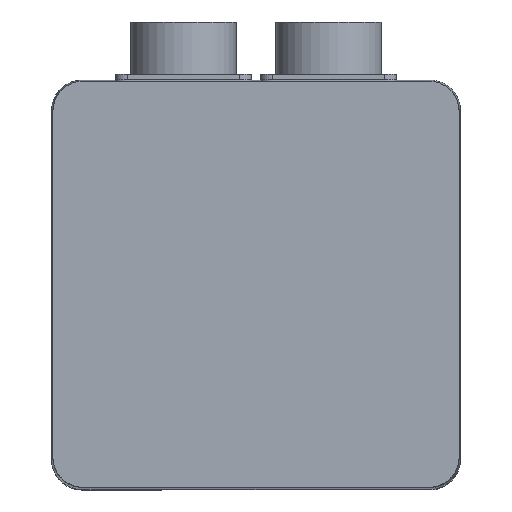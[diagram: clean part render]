
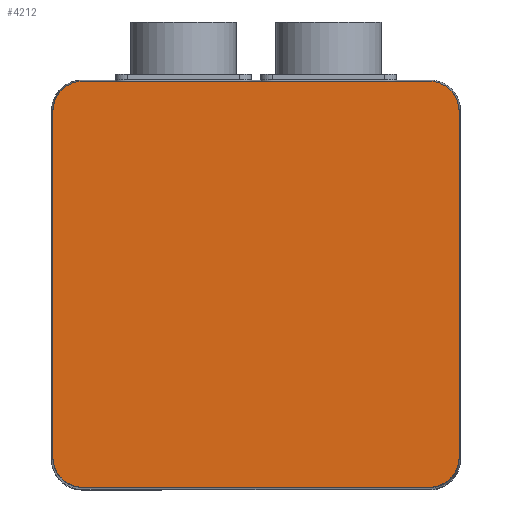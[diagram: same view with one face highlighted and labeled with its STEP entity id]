
A CAD part, top view. The second image highlights one B-rep face of the part: STEP entity #4212.
In plain terms, the highlighted planar face has unit normal (0, 0, 1).
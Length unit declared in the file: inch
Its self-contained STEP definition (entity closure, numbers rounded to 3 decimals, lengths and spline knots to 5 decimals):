
#3676=CARTESIAN_POINT('',(1.675,1.425,6.195));
#3677=VERTEX_POINT('',#3676);
#3684=CARTESIAN_POINT('',(1.675,-1.425,6.195));
#3685=VERTEX_POINT('',#3684);
#3686=CARTESIAN_POINT('',(1.675,1.425,6.195));
#3687=DIRECTION('',(0.0,-1.0,0.0));
#3688=VECTOR('',#3687,2.85);
#3689=LINE('',#3686,#3688);
#3690=EDGE_CURVE('',#3677,#3685,#3689,.T.);
#3755=CARTESIAN_POINT('',(1.425,1.675,6.195));
#3756=VERTEX_POINT('',#3755);
#3763=CARTESIAN_POINT('',(1.425,1.425,6.195));
#3764=DIRECTION('',(0.0,0.0,-1.));
#3765=DIRECTION('',(0.707,0.707,0.0));
#3766=AXIS2_PLACEMENT_3D('',#3763,#3764,#3765);
#3767=CIRCLE('',#3766,0.25);
#3768=EDGE_CURVE('',#3756,#3677,#3767,.T.);
#3818=CARTESIAN_POINT('',(-1.425,1.675,6.195));
#3819=VERTEX_POINT('',#3818);
#3826=CARTESIAN_POINT('',(-1.425,1.675,6.195));
#3827=DIRECTION('',(1.0,0.0,0.0));
#3828=VECTOR('',#3827,2.85);
#3829=LINE('',#3826,#3828);
#3830=EDGE_CURVE('',#3819,#3756,#3829,.T.);
#3883=CARTESIAN_POINT('',(-1.675,1.425,6.195));
#3884=VERTEX_POINT('',#3883);
#3891=CARTESIAN_POINT('',(-1.425,1.425,6.195));
#3892=DIRECTION('',(0.0,0.0,-1.));
#3893=DIRECTION('',(-0.707,0.707,0.0));
#3894=AXIS2_PLACEMENT_3D('',#3891,#3892,#3893);
#3895=CIRCLE('',#3894,0.25);
#3896=EDGE_CURVE('',#3884,#3819,#3895,.T.);
#3969=CARTESIAN_POINT('',(1.425,-1.675,6.195));
#3970=VERTEX_POINT('',#3969);
#3977=CARTESIAN_POINT('',(-1.425,-1.675,6.195));
#3978=VERTEX_POINT('',#3977);
#3979=CARTESIAN_POINT('',(1.425,-1.675,6.195));
#3980=DIRECTION('',(-1.0,0.0,0.0));
#3981=VECTOR('',#3980,2.85);
#3982=LINE('',#3979,#3981);
#3983=EDGE_CURVE('',#3970,#3978,#3982,.T.);
#4001=CARTESIAN_POINT('',(1.425,-1.425,6.195));
#4002=DIRECTION('',(0.0,0.0,-1.));
#4003=DIRECTION('',(0.707,-0.707,0.0));
#4004=AXIS2_PLACEMENT_3D('',#4001,#4002,#4003);
#4005=CIRCLE('',#4004,0.25);
#4006=EDGE_CURVE('',#3685,#3970,#4005,.T.);
#4173=CARTESIAN_POINT('',(-1.675,-1.425,6.195));
#4174=VERTEX_POINT('',#4173);
#4181=CARTESIAN_POINT('',(-1.675,-1.425,6.195));
#4182=DIRECTION('',(0.0,1.0,0.0));
#4183=VECTOR('',#4182,2.85);
#4184=LINE('',#4181,#4183);
#4185=EDGE_CURVE('',#4174,#3884,#4184,.T.);
#4191=CARTESIAN_POINT('',(0.,0.,6.195));
#4192=DIRECTION('',(0.0,0.0,1.0));
#4193=DIRECTION('',(1.0,0.0,0.0));
#4194=AXIS2_PLACEMENT_3D('',#4191,#4192,#4193);
#4195=PLANE('',#4194);
#4196=CARTESIAN_POINT('',(-1.425,-1.425,6.195));
#4197=DIRECTION('',(0.0,0.0,-1.));
#4198=DIRECTION('',(-0.707,-0.707,0.0));
#4199=AXIS2_PLACEMENT_3D('',#4196,#4197,#4198);
#4200=CIRCLE('',#4199,0.25);
#4201=EDGE_CURVE('',#3978,#4174,#4200,.T.);
#4202=ORIENTED_EDGE('',*,*,#4201,.F.);
#4203=ORIENTED_EDGE('',*,*,#3983,.F.);
#4204=ORIENTED_EDGE('',*,*,#4006,.F.);
#4205=ORIENTED_EDGE('',*,*,#3690,.F.);
#4206=ORIENTED_EDGE('',*,*,#3768,.F.);
#4207=ORIENTED_EDGE('',*,*,#3830,.F.);
#4208=ORIENTED_EDGE('',*,*,#3896,.F.);
#4209=ORIENTED_EDGE('',*,*,#4185,.F.);
#4210=EDGE_LOOP('',(#4202,#4203,#4204,#4205,#4206,#4207,#4208,#4209));
#4211=FACE_OUTER_BOUND('',#4210,.T.);
#4212=ADVANCED_FACE('',(#4211),#4195,.T.);
